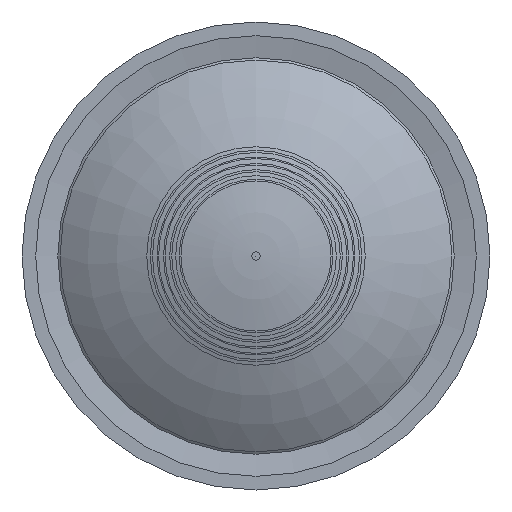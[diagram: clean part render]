
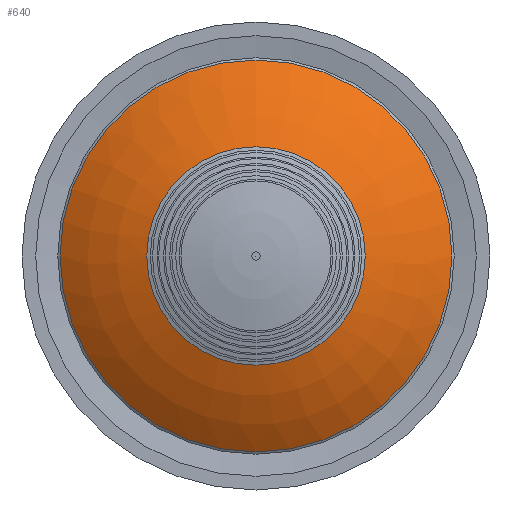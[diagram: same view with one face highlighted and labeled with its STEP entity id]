
A CAD part, left-side view. The second image highlights one B-rep face of the part: STEP entity #640.
In plain terms, the highlighted toroidal (fillet/blend) face has major radius 0.013 mm and minor radius 11.964 mm.
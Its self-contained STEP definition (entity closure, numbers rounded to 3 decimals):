
#22 = TOROIDAL_SURFACE ( 'NONE', #1162, 0.013, 11.964 ) ;
#212 = DIRECTION ( 'NONE',  ( 0., 0., 1. ) ) ;
#215 = VERTEX_POINT ( 'NONE', #526 ) ;
#271 = AXIS2_PLACEMENT_3D ( 'NONE', #741, #1169, #212 ) ;
#421 = CIRCLE ( 'NONE', #591, 7.117 ) ;
#526 = CARTESIAN_POINT ( 'NONE',  ( 5427.655, 970.265, 3.97 ) ) ;
#568 = CIRCLE ( 'NONE', #271, 3.97 ) ;
#591 = AXIS2_PLACEMENT_3D ( 'NONE', #1182, #1063, #1187 ) ;
#640 = ADVANCED_FACE ( 'NONE', ( #943, #801 ), #22, .T. ) ;
#652 = EDGE_CURVE ( 'NONE', #1367, #1367, #421, .T. ) ;
#653 = ORIENTED_EDGE ( 'NONE', *, *, #652, .T. ) ;
#741 = CARTESIAN_POINT ( 'NONE',  ( 5427.655, 970.265, 0. ) ) ;
#764 = DIRECTION ( 'NONE',  ( 0., 0., 1. ) ) ;
#794 = EDGE_LOOP ( 'NONE', ( #653 ) ) ;
#801 = FACE_OUTER_BOUND ( 'NONE', #794, .T. ) ;
#826 = CARTESIAN_POINT ( 'NONE',  ( 5429.32, 970.265, 7.117 ) ) ;
#856 = DIRECTION ( 'NONE',  ( -1., 0., 0. ) ) ;
#943 = FACE_OUTER_BOUND ( 'NONE', #1044, .T. ) ;
#950 = CARTESIAN_POINT ( 'NONE',  ( 5438.946, 970.265, 0. ) ) ;
#1044 = EDGE_LOOP ( 'NONE', ( #1145 ) ) ;
#1063 = DIRECTION ( 'NONE',  ( -1., 0., 0. ) ) ;
#1145 = ORIENTED_EDGE ( 'NONE', *, *, #1257, .F. ) ;
#1162 = AXIS2_PLACEMENT_3D ( 'NONE', #950, #856, #764 ) ;
#1169 = DIRECTION ( 'NONE',  ( -1., 0., 0. ) ) ;
#1182 = CARTESIAN_POINT ( 'NONE',  ( 5429.32, 970.265, 0. ) ) ;
#1187 = DIRECTION ( 'NONE',  ( 0., 0., 1. ) ) ;
#1257 = EDGE_CURVE ( 'NONE', #215, #215, #568, .T. ) ;
#1367 = VERTEX_POINT ( 'NONE', #826 ) ;
